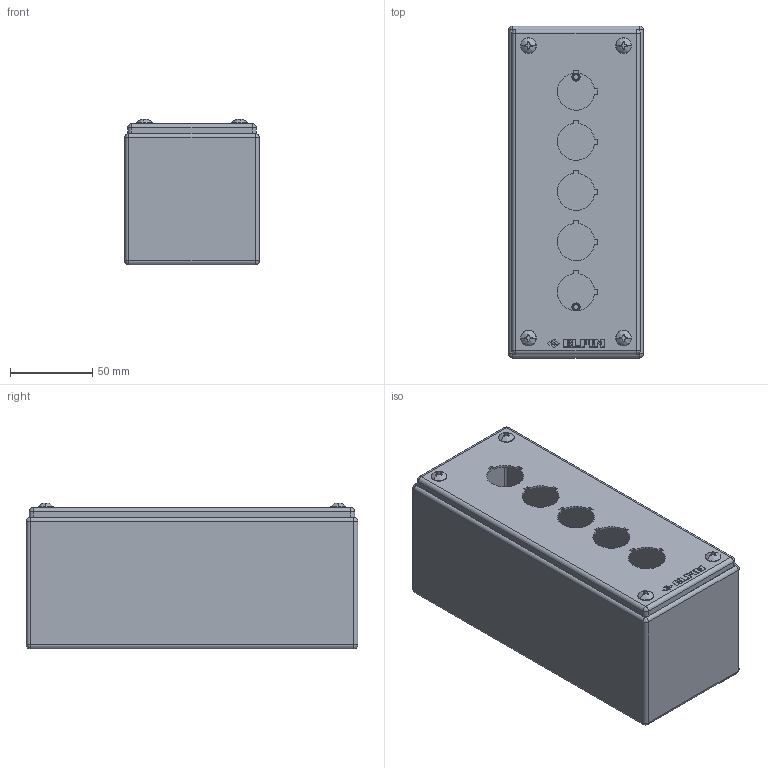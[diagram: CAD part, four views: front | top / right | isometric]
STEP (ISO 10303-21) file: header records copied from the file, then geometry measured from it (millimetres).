
FILE_DESCRIPTION (( 'STEP AP214' ), '1' );
FILE_NAME ('040X0820-8P5L.STEP', '2025-05-09T11:33:29', ( '' ), ( '' ), 'SwSTEP 2.0', 'SolidWorks 2013', '' );
FILE_SCHEMA (( 'AUTOMOTIVE_DESIGN' ));
Length unit declared in the file: millimetre
Products named in the file (1): 040X0820-8P5L
Bounding box: 82 x 202 x 88.8 mm (x, y, z)
Volume: 96288.7 mm3; surface area: 162133.3 mm2
Topology: 13 solids, 13 shells, 488 faces, 1185 edges, 719 vertices
Faces by surface type: plane 288, cylinder 118, bspline 48, cone 28, torus 6
Entity records: 20250 total; most frequent: CARTESIAN_POINT 3521, ORIENTED_EDGE 2322, DIRECTION 2278, EDGE_CURVE 1161, LINE 766, VECTOR 766, AXIS2_PLACEMENT_3D 756, VERTEX_POINT 719
